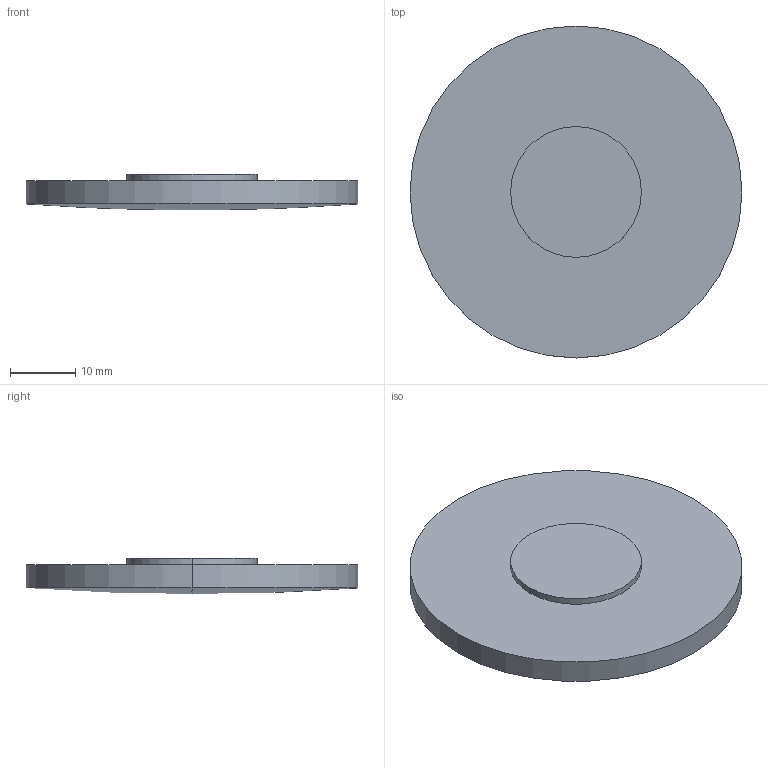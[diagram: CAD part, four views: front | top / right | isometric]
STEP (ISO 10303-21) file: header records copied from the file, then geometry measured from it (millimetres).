
FILE_DESCRIPTION(('STEP AP214'),'1');
FILE_NAME('LLQ-51760.STEP','2020-03-09T17:41:54',(' '),(' '),'Spatial InterOp 3D',' ',' ');
FILE_SCHEMA(('AUTOMOTIVE_DESIGN { 1 0 10303 214 1 1 1 1 }'));
Length unit declared in the file: millimetre
Products named in the file (1): 1
Bounding box: 50.8 x 50.8 x 5.5 mm (x, y, z)
Volume: 8508.9 mm3; surface area: 5319.7 mm2
Topology: 2 solids, 2 shells, 9 faces, 16 edges, 9 vertices
Faces by surface type: cylinder 4, plane 3, sphere 2
Entity records: 229 total; most frequent: DIRECTION 46, CARTESIAN_POINT 34, ORIENTED_EDGE 28, AXIS2_PLACEMENT_3D 21, EDGE_CURVE 14, CIRCLE 10, ADVANCED_FACE 9, FACE_OUTER_BOUND 9
